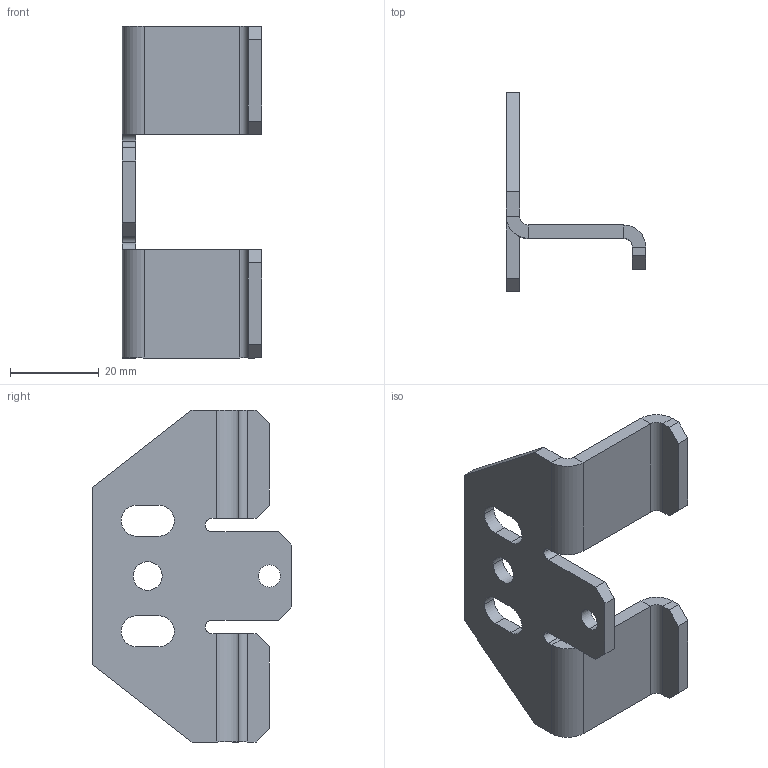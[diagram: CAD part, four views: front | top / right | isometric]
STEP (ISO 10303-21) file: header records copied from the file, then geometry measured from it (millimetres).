
FILE_DESCRIPTION (( 'STEP AP203' ), '1' );
FILE_NAME ('MPEF10_V1.step', '2013-03-29T06:15:53', ( '' ), ( '' ), 'SwSTEP 2.0', 'SolidWorks 2011', '' );
FILE_SCHEMA (( 'CONFIG_CONTROL_DESIGN' ));
Length unit declared in the file: millimetre
Products named in the file (1): MPEF10_V1
Bounding box: 31.5 x 45 x 75 mm (x, y, z)
Volume: 10931 mm3; surface area: 8679.3 mm2
Topology: 1 solids, 1 shells, 70 faces, 172 edges, 104 vertices
Faces by surface type: plane 48, cylinder 22
Entity records: 2117 total; most frequent: DIRECTION 358, CARTESIAN_POINT 347, ORIENTED_EDGE 344, EDGE_CURVE 172, LINE 128, VECTOR 128, AXIS2_PLACEMENT_3D 115, VERTEX_POINT 104
